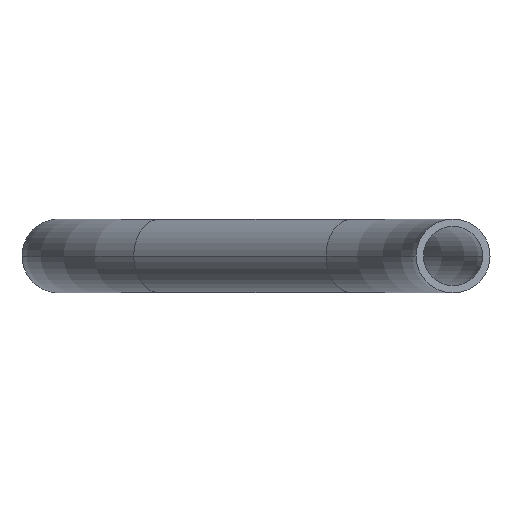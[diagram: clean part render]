
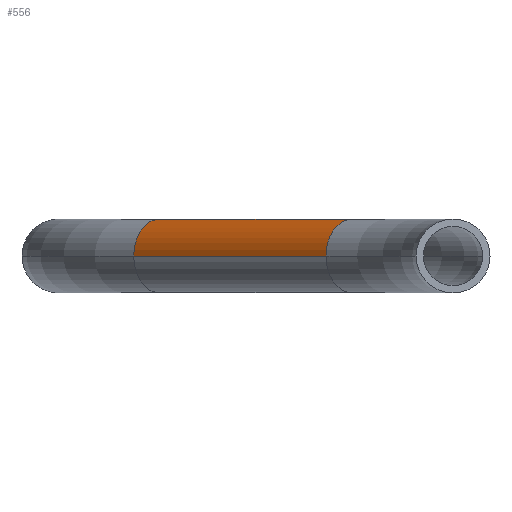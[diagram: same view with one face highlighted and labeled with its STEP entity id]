
A CAD part, left-side view. The second image highlights one B-rep face of the part: STEP entity #556.
In plain terms, the highlighted cylindrical face has radius 7.5 mm (diameter 15 mm), a partial arc.
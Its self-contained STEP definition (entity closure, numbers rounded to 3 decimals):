
#2 = ORIENTED_EDGE ( 'NONE', *, *, #210, .F. ) ;
#28 = DIRECTION ( 'NONE',  ( 0.707, 0.707, 0. ) ) ;
#49 = VECTOR ( 'NONE', #405, 1000. ) ;
#52 = LINE ( 'NONE', #229, #49 ) ;
#67 = ORIENTED_EDGE ( 'NONE', *, *, #299, .T. ) ;
#84 = DIRECTION ( 'NONE',  ( 0.707, -0.707, 0. ) ) ;
#94 = CIRCLE ( 'NONE', #98, 7.5 ) ;
#98 = AXIS2_PLACEMENT_3D ( 'NONE', #443, #28, #385 ) ;
#109 = ORIENTED_EDGE ( 'NONE', *, *, #275, .F. ) ;
#140 = AXIS2_PLACEMENT_3D ( 'NONE', #400, #335, #490 ) ;
#146 = CARTESIAN_POINT ( 'NONE',  ( 249.206, 64.808, 0. ) ) ;
#161 = EDGE_CURVE ( 'NONE', #289, #594, #578, .T. ) ;
#184 = CARTESIAN_POINT ( 'NONE',  ( 259.812, 54.2, 0. ) ) ;
#199 = CARTESIAN_POINT ( 'NONE',  ( 254.509, 59.504, 0. ) ) ;
#201 = VECTOR ( 'NONE', #355, 1000. ) ;
#210 = EDGE_CURVE ( 'NONE', #221, #594, #226, .T. ) ;
#221 = VERTEX_POINT ( 'NONE', #710 ) ;
#222 = ORIENTED_EDGE ( 'NONE', *, *, #161, .T. ) ;
#226 = LINE ( 'NONE', #184, #201 ) ;
#229 = CARTESIAN_POINT ( 'NONE',  ( 249.206, 64.808, 0. ) ) ;
#275 = EDGE_CURVE ( 'NONE', #672, #221, #94, .T. ) ;
#289 = VERTEX_POINT ( 'NONE', #605 ) ;
#299 = EDGE_CURVE ( 'NONE', #672, #289, #52, .T. ) ;
#335 = DIRECTION ( 'NONE',  ( 0.707, 0.707, 0. ) ) ;
#350 = EDGE_LOOP ( 'NONE', ( #109, #67, #222, #2 ) ) ;
#355 = DIRECTION ( 'NONE',  ( -0.707, -0.707, 0. ) ) ;
#385 = DIRECTION ( 'NONE',  ( -0.707, 0.707, 0. ) ) ;
#400 = CARTESIAN_POINT ( 'NONE',  ( 215.491, 20.496, 0. ) ) ;
#405 = DIRECTION ( 'NONE',  ( -0.707, -0.707, 0. ) ) ;
#443 = CARTESIAN_POINT ( 'NONE',  ( 254.509, 59.504, 0. ) ) ;
#460 = AXIS2_PLACEMENT_3D ( 'NONE', #199, #697, #84 ) ;
#490 = DIRECTION ( 'NONE',  ( -0.707, 0.707, 0. ) ) ;
#547 = CARTESIAN_POINT ( 'NONE',  ( 220.794, 15.192, 0. ) ) ;
#556 = ADVANCED_FACE ( 'NONE', ( #567 ), #600, .T. ) ;
#567 = FACE_OUTER_BOUND ( 'NONE', #350, .T. ) ;
#578 = CIRCLE ( 'NONE', #140, 7.5 ) ;
#594 = VERTEX_POINT ( 'NONE', #547 ) ;
#600 = CYLINDRICAL_SURFACE ( 'NONE', #460, 7.5 ) ;
#605 = CARTESIAN_POINT ( 'NONE',  ( 210.188, 25.8, 0. ) ) ;
#672 = VERTEX_POINT ( 'NONE', #146 ) ;
#697 = DIRECTION ( 'NONE',  ( -0.707, -0.707, 0. ) ) ;
#710 = CARTESIAN_POINT ( 'NONE',  ( 259.812, 54.2, 0. ) ) ;
